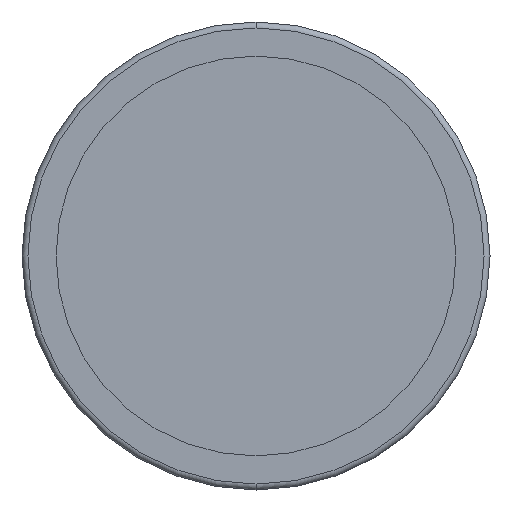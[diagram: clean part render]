
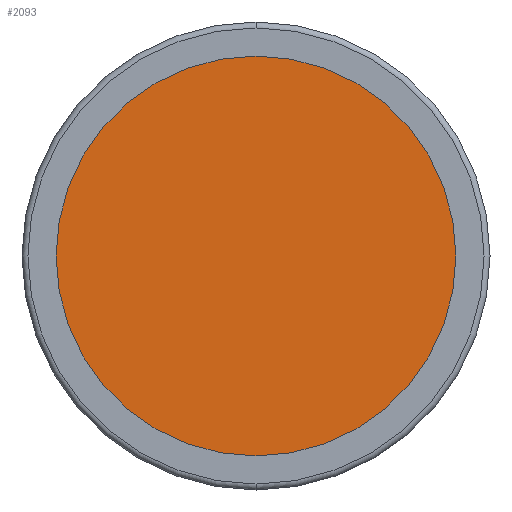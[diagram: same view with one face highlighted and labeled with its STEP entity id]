
A CAD part, front view. The second image highlights one B-rep face of the part: STEP entity #2093.
In plain terms, the highlighted planar face has unit normal (0, -1, 0).
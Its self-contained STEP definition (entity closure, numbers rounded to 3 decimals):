
#122 = DIRECTION ( 'NONE',  ( 0., 0., 1. ) ) ;
#136 = VERTEX_POINT ( 'NONE', #783 ) ;
#262 = DIRECTION ( 'NONE',  ( 0., 0., 1. ) ) ;
#322 = EDGE_CURVE ( 'NONE', #136, #2197, #2354, .T. ) ;
#382 = CIRCLE ( 'NONE', #2436, 33.75 ) ;
#399 = FACE_OUTER_BOUND ( 'NONE', #1421, .T. ) ;
#783 = CARTESIAN_POINT ( 'NONE',  ( 0., -2., -33.75 ) ) ;
#881 = ORIENTED_EDGE ( 'NONE', *, *, #2017, .F. ) ;
#1048 = AXIS2_PLACEMENT_3D ( 'NONE', #1997, #1625, #262 ) ;
#1265 = DIRECTION ( 'NONE',  ( 0., 1., 0. ) ) ;
#1353 = DIRECTION ( 'NONE',  ( 0., 0., -1. ) ) ;
#1421 = EDGE_LOOP ( 'NONE', ( #881, #2222 ) ) ;
#1454 = CARTESIAN_POINT ( 'NONE',  ( 0., -2., 33.75 ) ) ;
#1526 = PLANE ( 'NONE',  #1760 ) ;
#1625 = DIRECTION ( 'NONE',  ( 0., 1., 0. ) ) ;
#1674 = CARTESIAN_POINT ( 'NONE',  ( -33.75, -2., 0. ) ) ;
#1760 = AXIS2_PLACEMENT_3D ( 'NONE', #1674, #2278, #1353 ) ;
#1997 = CARTESIAN_POINT ( 'NONE',  ( 0., -2., 0. ) ) ;
#2017 = EDGE_CURVE ( 'NONE', #2197, #136, #382, .T. ) ;
#2093 = ADVANCED_FACE ( 'NONE', ( #399 ), #1526, .T. ) ;
#2197 = VERTEX_POINT ( 'NONE', #1454 ) ;
#2212 = CARTESIAN_POINT ( 'NONE',  ( 0., -2., 0. ) ) ;
#2222 = ORIENTED_EDGE ( 'NONE', *, *, #322, .F. ) ;
#2278 = DIRECTION ( 'NONE',  ( 0., -1., 0. ) ) ;
#2354 = CIRCLE ( 'NONE', #1048, 33.75 ) ;
#2436 = AXIS2_PLACEMENT_3D ( 'NONE', #2212, #1265, #122 ) ;
